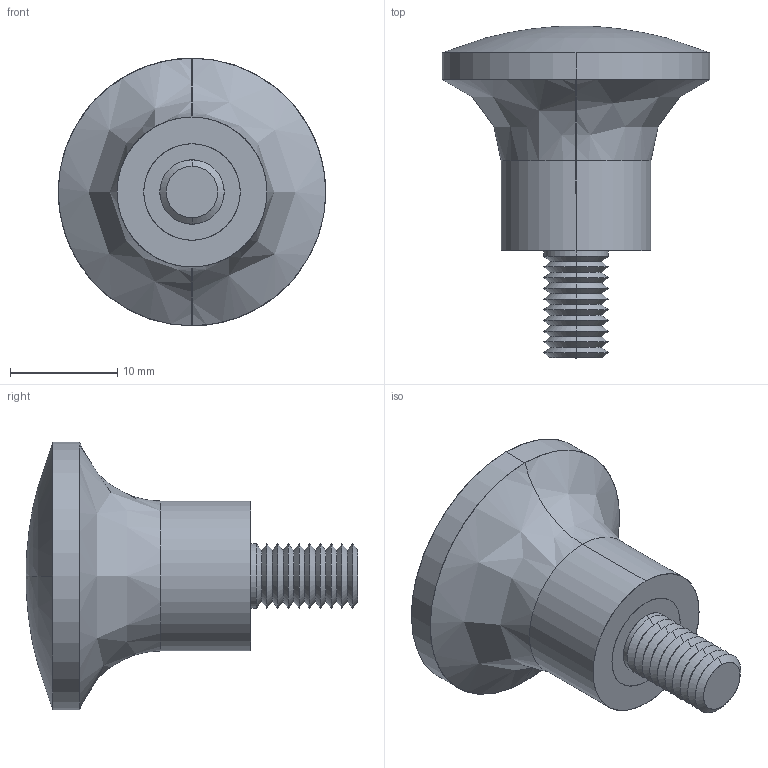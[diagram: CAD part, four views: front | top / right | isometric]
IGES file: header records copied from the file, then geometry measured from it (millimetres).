
Start section: SolidWorks IGES file using analytic representation for surfaces
Global section: file name: C:\Users\IanO\Desktop\Temp File\Process pending\73200_v2\73200_v2_20171103_IGES\73200.W0125.igs; native system: SolidWorks 2017; preprocessor: SolidWorks 2017; author: IanO; date: 171103.111804; units: millimetre
Bounding box: 25 x 31 x 25 mm (x, y, z)
Surface area: 2957.7 mm2 (no closed solid volume)
Topology: 0 solids, 0 shells, 71 faces, 676 edges, 671 vertices
Faces by surface type: revolution 62, bspline 9
